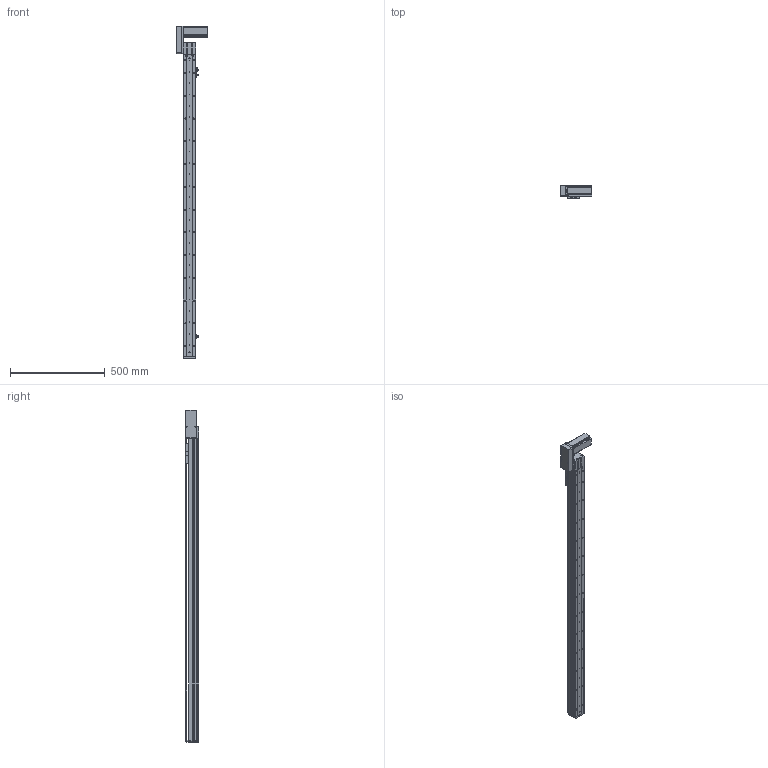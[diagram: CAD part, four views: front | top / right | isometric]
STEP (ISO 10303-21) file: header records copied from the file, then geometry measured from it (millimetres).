
FILE_DESCRIPTION (( 'STEP AP214' ), '1' );
FILE_NAME ('KSD68BS-S1400-MRB-CM.STEP', '2019-10-19T09:39:10', ( '微软用户' ), ( '微软中国' ), 'SwSTEP 2.0', 'SolidWorks 2014', '' );
FILE_SCHEMA (( 'AUTOMOTIVE_DESIGN' ));
Length unit declared in the file: millimetre
Products named in the file (12): 悵誘欶奻狟殏; 68宽马达安装板连板上折同步带; 68宽单导轨半封闭同步带主动轮座右; S3M150同步带压条单导轨_TBCR-S3M150; 68单导轨同步带半封闭端板; KSD68BS 1400俴最裔啣圉猾敕; 覜茼え68遵圉猾敕; KSD68BS半封闭同步带传动导轨座; U倰嫖萇EEㄜSX672; 台达ECMA－C20604AS伺服电机（400W); KSD68BS 1400俴最菁啣圉猾敕; KSD68BS-S1400-MRB-CM
Assembly tree (13 placements, depth 2):
  KSD68BS-S1400-MRB-CM
    KSD68BS 1400俴最菁啣圉猾敕
    台达ECMA－C20604AS伺服电机（400W)
    U倰嫖萇EEㄜSX672  x3
    KSD68BS半封闭同步带传动导轨座
    覜茼え68遵圉猾敕
    KSD68BS 1400俴最裔啣圉猾敕
    68单导轨同步带半封闭端板
    S3M150同步带压条单导轨_TBCR-S3M150
    68宽单导轨半封闭同步带主动轮座右
    68宽马达安装板连板上折同步带
    悵誘欶奻狟殏
Bounding box: 167.2 x 70.5 x 1749.5 mm (x, y, z)
Volume: 2876785.1 mm3; surface area: 1054595 mm2
Topology: 14 solids, 14 shells, 1604 faces, 4684 edges, 3054 vertices
Faces by surface type: cylinder 846, plane 675, cone 83
Entity records: 61725 total; most frequent: CARTESIAN_POINT 12439, ORIENTED_EDGE 8120, DIRECTION 7860, EDGE_CURVE 4060, AXIS2_PLACEMENT_3D 2835, VERTEX_POINT 2678, LINE 2190, VECTOR 2190
